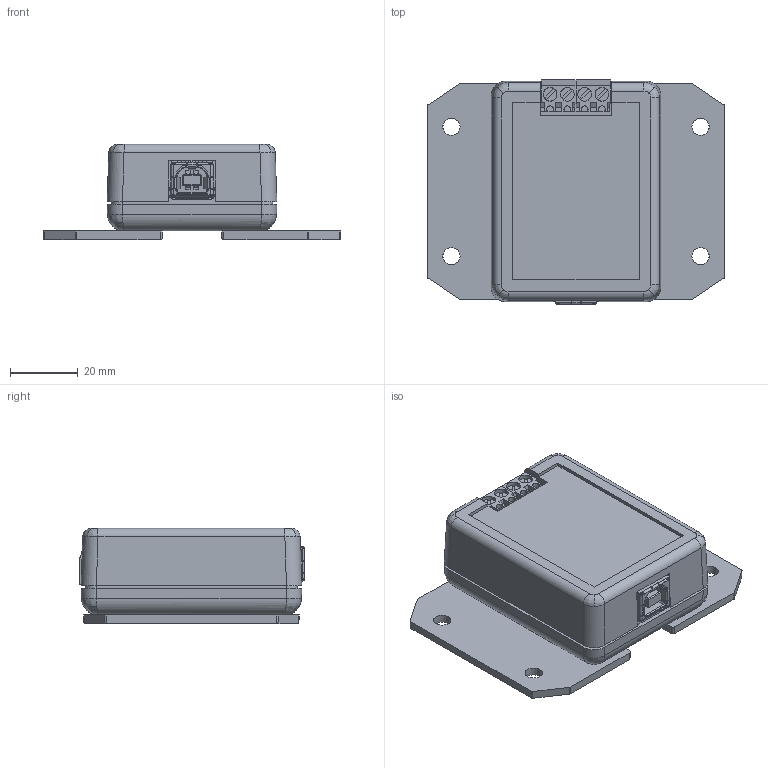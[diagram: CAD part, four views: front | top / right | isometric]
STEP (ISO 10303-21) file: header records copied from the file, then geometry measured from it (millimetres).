
FILE_DESCRIPTION (( 'STEP AP214' ), '1' );
FILE_NAME ('Mini-ADU, 4-Pos, Flange.STEP', '2018-09-24T19:43:54', ( '' ), ( '' ), 'SwSTEP 2.0', 'SolidWorks 2014', '' );
FILE_SCHEMA (( 'AUTOMOTIVE_DESIGN' ));
Length unit declared in the file: inch
Products named in the file (8): 91420A128_METRIC FLAT HEAD PHILLIPS MACHINE SCREW_91420A128; Mounting Bracket ADU; USB; Wieland_25.163.0253.0_CAD STEP data; Circuit Board; M3  SERIES 29 LNG; MiniADU; Mini-ADU, 4-Pos, Flange
Assembly tree (15 placements, depth 2):
  Mini-ADU, 4-Pos, Flange
    MiniADU
    M3  SERIES 29 LNG  x4
    Circuit Board
    Wieland_25.163.0253.0_CAD STEP data  x2
    USB
    Mounting Bracket ADU  x2
    91420A128_METRIC FLAT HEAD PHILLIPS MACHINE SCREW_91420A128  x4
Bounding box: 87.56 x 66.18 x 28.04 mm (x, y, z)
Volume: 45182.4 mm3; surface area: 45954.7 mm2
Topology: 15 solids, 16 shells, 2467 faces, 6764 edges, 4398 vertices
Faces by surface type: plane 1187, cylinder 922, bspline 224, cone 126, torus 8
Entity records: 70911 total; most frequent: CARTESIAN_POINT 26670, ORIENTED_EDGE 9436, DIRECTION 7342, EDGE_CURVE 4722, VECTOR 3130, LINE 3130, VERTEX_POINT 3061, AXIS2_PLACEMENT_3D 2106
